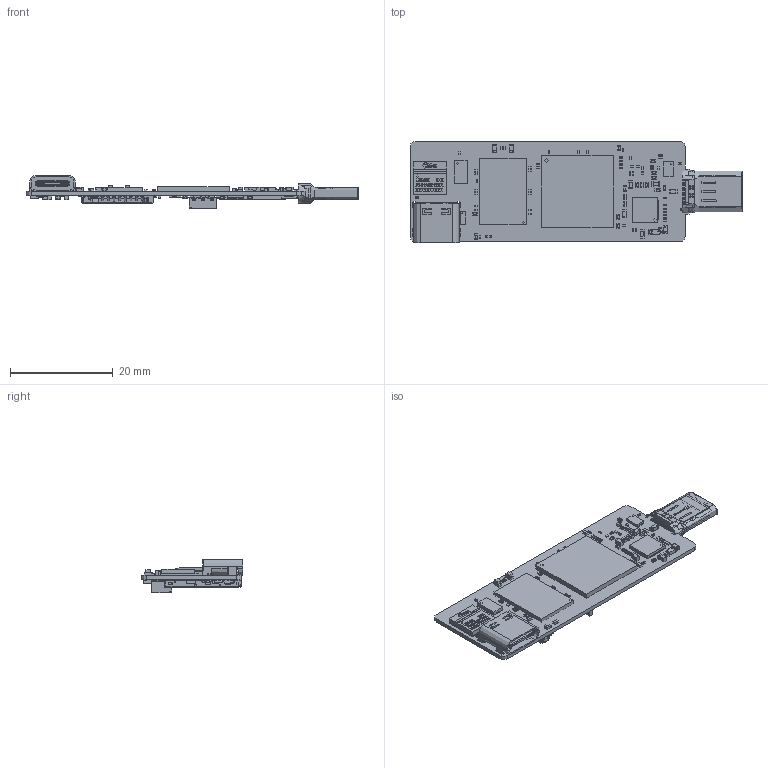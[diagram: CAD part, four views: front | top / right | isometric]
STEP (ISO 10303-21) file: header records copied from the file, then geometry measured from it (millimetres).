
FILE_DESCRIPTION(('KiCad electronic assembly'),'2;1');
FILE_NAME('armory.step','2021-06-14T09:30:17',('An Author'),('A Company' ),'Open CASCADE STEP processor 7.5','KiCad to STEP converter', 'Unknown');
FILE_SCHEMA(('AUTOMOTIVE_DESIGN { 1 0 10303 214 1 1 1 1 }'));
Length unit declared in the file: millimetre
Products named in the file (52): Open CASCADE STEP translator 7.5 1; 632712000112_NOCAP (rev1); COMPOUND; R_0201_0603Metric; SOLID; EM08APGD3-BA000-2--3DModel-STEP-56544; C_0402_1005Metric; D_0603_1608Metric; QFN-40-1EP_5x5mm_P0.4mm_EP3.6x3.6mm; WDFN-8-1EP_3x2mm_P0.5mm_EP1.3x1.4mm; 5031821852; u-blox_ANNA-B1-LGA52 (STEP-AP214)_1.0; WSON-8_DQD; C_0201_0603Metric; BGA-96_9.0x13.0mm_Layout2x3x16_P0.8mm; USON-10_2.5x1.0mm_P0.5mm; Crystal_SMD_SeikoEpson_TSX3225-4Pin_3.2x2.5mm; C_0603_1608Metric; L_0603_1608Metric; MLF-6-1EP_1.6x1.6mm_P0.5mm_EP0.5x1.26mm; 1054500101; X2SON-DWP5; LED_0603_1608Metric; BGA-256_14.0x14.0mm_Layout16x16_P0.8mm_Ball0.45mm_Pad0.32mm_NSMD; Texas_DSBGA-6_0.9x1.4mm_Layout2x3_P0.5mm; WQFN-20-1EP_2.5x4.5mm_P0.5mm_EP1x2.9mm; CAS-220TA1; UQFN-20-1EP_3x3mm_P0.4mm_EP1.85x1.85mm
Assembly tree (203 placements, depth 3):
  Open CASCADE STEP translator 7.5 1
    632712000112_NOCAP (rev1)
      COMPOUND
    R_0201_0603Metric  x43
      SOLID
    EM08APGD3-BA000-2--3DModel-STEP-56544
      COMPOUND
    C_0402_1005Metric  x31
      SOLID
    D_0603_1608Metric  x2
      SOLID
    QFN-40-1EP_5x5mm_P0.4mm_EP3.6x3.6mm
      SOLID
    WDFN-8-1EP_3x2mm_P0.5mm_EP1.3x1.4mm
      SOLID
    5031821852
      COMPOUND
    u-blox_ANNA-B1-LGA52 (STEP-AP214)_1.0
      COMPOUND
    WSON-8_DQD
      COMPOUND
    C_0201_0603Metric  x71
      SOLID
    BGA-96_9.0x13.0mm_Layout2x3x16_P0.8mm
      SOLID
    USON-10_2.5x1.0mm_P0.5mm  x2
      SOLID
    Crystal_SMD_SeikoEpson_TSX3225-4Pin_3.2x2.5mm
      SOLID
    C_0603_1608Metric  x5
      SOLID
    L_0603_1608Metric  x3
      SOLID
    MLF-6-1EP_1.6x1.6mm_P0.5mm_EP0.5x1.26mm  x2
      SOLID
    1054500101
      COMPOUND
    X2SON-DWP5
      SOLID
    LED_0603_1608Metric  x2
      SOLID
    BGA-256_14.0x14.0mm_Layout16x16_P0.8mm_Ball0.45mm_Pad0.32mm_NSMD
      SOLID
    Texas_DSBGA-6_0.9x1.4mm_Layout2x3_P0.5mm
      SOLID
    WQFN-20-1EP_2.5x4.5mm_P0.5mm_EP1x2.9mm
      SOLID
    CAS-220TA1
      COMPOUND
    UQFN-20-1EP_3x3mm_P0.4mm_EP1.85x1.85mm
      SOLID
    COMPOUND
Bounding box: 64.73 x 19.75 x 6.48 mm (x, y, z)
Topology: 435 solids, 436 shells, 10777 faces, 29548 edges, 19723 vertices
Faces by surface type: plane 6998, cylinder 2839, bspline 491, sphere 416, torus 26, cone 7
Full cylindrical faces by diameter (mm): 0.2 x6, 0.4 x1, 0.414 x1, 0.5 x4, 0.8 x1
Entity records: 470097 total; most frequent: CARTESIAN_POINT 107463, DIRECTION 63182, LINE 43013, VECTOR 43013, ORIENTED_EDGE 35242, PCURVE 35242, DEFINITIONAL_REPRESENTATION 35242, EDGE_CURVE 17621
